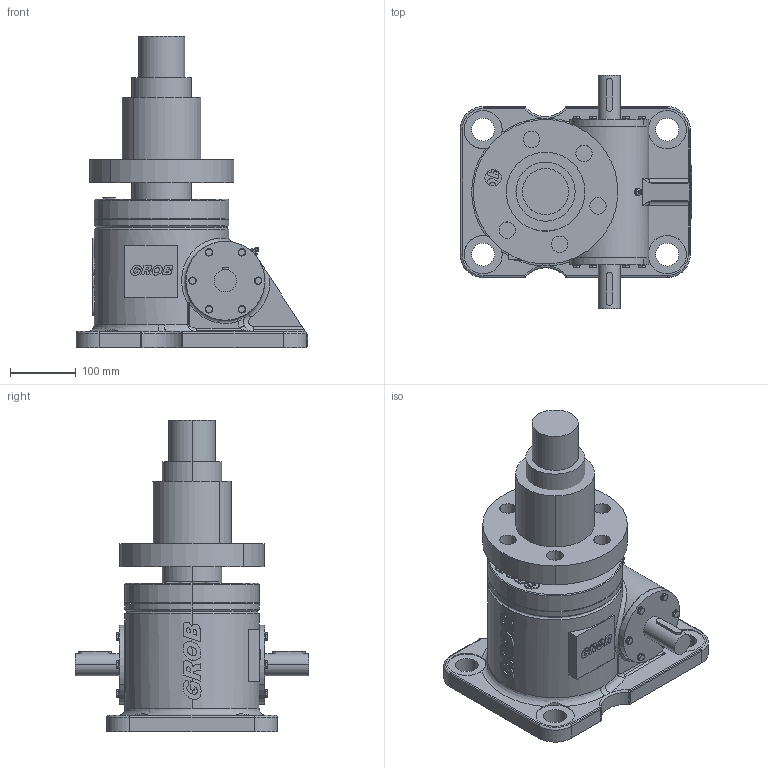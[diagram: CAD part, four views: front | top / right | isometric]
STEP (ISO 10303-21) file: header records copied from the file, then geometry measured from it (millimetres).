
FILE_DESCRIPTION(('STEP AP203'),'1');
FILE_NAME('mc25-lmn-f-1f-z-0005-0185-tr90x16-ab-mg0-o_ohne.stp','2023-12-20T14:56:22',('TraceParts'),('TraceParts S.A.'),'Spatial InterOp 3D',' ',' ');
FILE_SCHEMA(('CONFIG_CONTROL_DESIGN'));
Length unit declared in the file: millimetre
Products named in the file (1): 1
Bounding box: 352.5 x 355 x 474 mm (x, y, z)
Volume: 14577477.1 mm3; surface area: 664974.9 mm2
Topology: 3 solids, 3 shells, 2307 faces, 6245 edges, 4001 vertices
Faces by surface type: cylinder 1268, plane 718, bspline 185, cone 116, torus 14, sphere 6
Entity records: 75891 total; most frequent: CARTESIAN_POINT 16122, DIRECTION 13457, ORIENTED_EDGE 12466, EDGE_CURVE 6233, AXIS2_PLACEMENT_3D 5391, VERTEX_POINT 4001, CIRCLE 3247, LINE 2675
